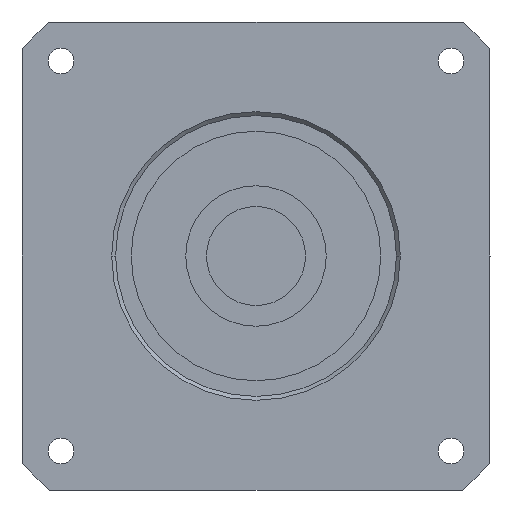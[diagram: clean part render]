
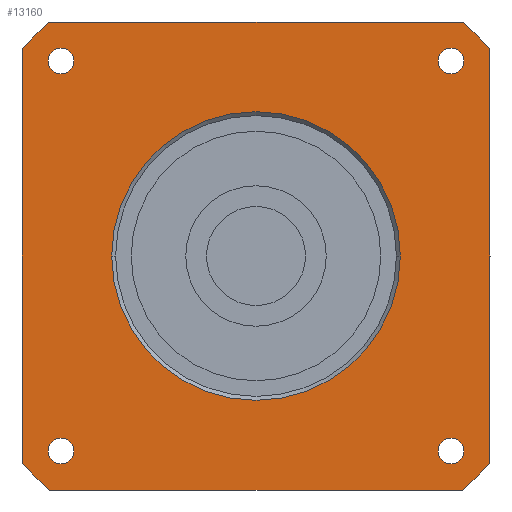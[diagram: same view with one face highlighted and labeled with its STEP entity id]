
A CAD part, left-side view. The second image highlights one B-rep face of the part: STEP entity #13160.
In plain terms, the highlighted planar face has unit normal (-1, 0, 0) as drawn and (0, 0, -1) by its records, which use the part's own axes.
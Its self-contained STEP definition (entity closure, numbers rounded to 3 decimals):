
#8640=CARTESIAN_POINT('',(25.,26.65,-39.));
#8650=VERTEX_POINT('',#8640);
#8830=CARTESIAN_POINT('',(25.,23.35,-39.));
#8840=VERTEX_POINT('',#8830);
#8870=CARTESIAN_POINT('',(25.,25.,-39.));
#8880=DIRECTION('',(0.,0.,-1.));
#8890=DIRECTION('',(0.,-1.,0.));
#8900=AXIS2_PLACEMENT_3D('',#8870,#8880,#8890);
#8910=CIRCLE('',#8900,1.65);
#8920=EDGE_CURVE('',#8650,#8840,#8910,.T.);
#9060=CARTESIAN_POINT('',(-25.,-23.35,-39.));
#9070=VERTEX_POINT('',#9060);
#9250=CARTESIAN_POINT('',(-25.,-26.65,-39.));
#9260=VERTEX_POINT('',#9250);
#9290=CARTESIAN_POINT('',(-25.,-25.,-39.));
#9300=DIRECTION('',(0.,0.,-1.));
#9310=DIRECTION('',(0.,-1.,0.));
#9320=AXIS2_PLACEMENT_3D('',#9290,#9300,#9310);
#9330=CIRCLE('',#9320,1.65);
#9340=EDGE_CURVE('',#9070,#9260,#9330,.T.);
#11680=CARTESIAN_POINT('',(-18.5,0.,-39.));
#11690=VERTEX_POINT('',#11680);
#11720=CARTESIAN_POINT('',(0.,0.,
-39.));
#11730=DIRECTION('',(0.,0.,-1.));
#11740=DIRECTION('',(0.,-1.,0.));
#11750=AXIS2_PLACEMENT_3D('',#11720,#11730,#11740);
#11760=CIRCLE('',#11750,18.5);
#11770=CARTESIAN_POINT('',(0.,-18.5,-39.));
#11780=VERTEX_POINT('',#11770);
#11790=EDGE_CURVE('',#11780,#11690,#11760,.T.);
#11810=CARTESIAN_POINT('',(18.5,0.,-39.));
#11820=VERTEX_POINT('',#11810);
#11830=EDGE_CURVE('',#11820,#11780,#11760,.T.);
#11950=CARTESIAN_POINT('',(0.,-40.,-39.));
#11960=DIRECTION('',(0.,0.,-1.));
#11970=DIRECTION('',(0.,-1.,0.));
#11980=AXIS2_PLACEMENT_3D('',#11950,#11960,#11970);
#11990=PLANE('',#11980);
#12000=CARTESIAN_POINT('',(25.,-25.,-39.));
#12010=DIRECTION('',(0.,0.,-1.));
#12020=DIRECTION('',(0.,-1.,0.));
#12030=AXIS2_PLACEMENT_3D('',#12000,#12010,#12020);
#12040=CIRCLE('',#12030,1.65);
#12050=CARTESIAN_POINT('',(25.,-26.65,-39.));
#12060=VERTEX_POINT('',#12050);
#12070=CARTESIAN_POINT('',(25.,-23.35,-39.));
#12080=VERTEX_POINT('',#12070);
#12090=EDGE_CURVE('',#12060,#12080,#12040,.T.);
#12100=ORIENTED_EDGE('',*,*,#12090,.F.);
#12110=EDGE_CURVE('',#12080,#12060,#12040,.T.);
#12120=ORIENTED_EDGE('',*,*,#12110,.F.);
#12130=EDGE_LOOP('',(#12120,#12100));
#12140=FACE_BOUND('',#12130,.T.);
#12150=EDGE_CURVE('',#8840,#8650,#8910,.T.);
#12160=ORIENTED_EDGE('',*,*,#12150,.F.);
#12170=ORIENTED_EDGE('',*,*,#8920,.F.);
#12180=EDGE_LOOP('',(#12170,#12160));
#12190=FACE_BOUND('',#12180,.T.);
#12200=CARTESIAN_POINT('',(-25.,25.,-39.));
#12210=DIRECTION('',(0.,0.,-1.));
#12220=DIRECTION('',(0.,-1.,0.));
#12230=AXIS2_PLACEMENT_3D('',#12200,#12210,#12220);
#12240=CIRCLE('',#12230,1.65);
#12250=CARTESIAN_POINT('',(-25.,23.35,-39.));
#12260=VERTEX_POINT('',#12250);
#12270=CARTESIAN_POINT('',(-25.,26.65,-39.));
#12280=VERTEX_POINT('',#12270);
#12290=EDGE_CURVE('',#12260,#12280,#12240,.T.);
#12300=ORIENTED_EDGE('',*,*,#12290,.F.);
#12310=EDGE_CURVE('',#12280,#12260,#12240,.T.);
#12320=ORIENTED_EDGE('',*,*,#12310,.F.);
#12330=EDGE_LOOP('',(#12320,#12300));
#12340=FACE_BOUND('',#12330,.T.);
#12350=EDGE_CURVE('',#9260,#9070,#9330,.T.);
#12360=ORIENTED_EDGE('',*,*,#12350,.F.);
#12370=ORIENTED_EDGE('',*,*,#9340,.F.);
#12380=EDGE_LOOP('',(#12370,#12360));
#12390=FACE_BOUND('',#12380,.T.);
#12400=ORIENTED_EDGE('',*,*,#11790,.F.);
#12410=EDGE_CURVE('',#11690,#11820,#11760,.T.);
#12420=ORIENTED_EDGE('',*,*,#12410,.F.);
#12430=ORIENTED_EDGE('',*,*,#11830,.F.);
#12440=EDGE_LOOP('',(#12430,#12420,#12400));
#12450=FACE_BOUND('',#12440,.T.);
#12460=CARTESIAN_POINT('',(-30.,-40.,-39.));
#12470=DIRECTION('',(0.,1.,0.));
#12480=VECTOR('',#12470,1000.);
#12490=LINE('',#12460,#12480);
#12500=CARTESIAN_POINT('',(-30.,-26.458,-39.));
#12510=VERTEX_POINT('',#12500);
#12520=CARTESIAN_POINT('',(-30.,26.458,-39.));
#12530=VERTEX_POINT('',#12520);
#12540=EDGE_CURVE('',#12510,#12530,#12490,.T.);
#12550=ORIENTED_EDGE('',*,*,#12540,.T.);
#12560=CARTESIAN_POINT('',(0.,0.,
-39.));
#12570=DIRECTION('',(0.,0.,1.));
#12580=DIRECTION('',(0.,1.,0.));
#12590=AXIS2_PLACEMENT_3D('',#12560,#12570,#12580);
#12600=CIRCLE('',#12590,40.);
#12610=CARTESIAN_POINT('',(-26.458,-30.,-39.));
#12620=VERTEX_POINT('',#12610);
#12630=EDGE_CURVE('',#12510,#12620,#12600,.T.);
#12640=ORIENTED_EDGE('',*,*,#12630,.F.);
#12650=CARTESIAN_POINT('',(0.,-30.,-39.));
#12660=DIRECTION('',(-1.,0.,0.));
#12670=VECTOR('',#12660,1000.);
#12680=LINE('',#12650,#12670);
#12690=CARTESIAN_POINT('',(26.458,-30.,-39.));
#12700=VERTEX_POINT('',#12690);
#12710=EDGE_CURVE('',#12700,#12620,#12680,.T.);
#12720=ORIENTED_EDGE('',*,*,#12710,.T.);
#12730=CARTESIAN_POINT('',(0.,0.,
-39.));
#12740=DIRECTION('',(0.,0.,1.));
#12750=DIRECTION('',(0.,1.,0.));
#12760=AXIS2_PLACEMENT_3D('',#12730,#12740,#12750);
#12770=CIRCLE('',#12760,40.);
#12780=CARTESIAN_POINT('',(30.,-26.458,-39.));
#12790=VERTEX_POINT('',#12780);
#12800=EDGE_CURVE('',#12700,#12790,#12770,.T.);
#12810=ORIENTED_EDGE('',*,*,#12800,.F.);
#12820=CARTESIAN_POINT('',(30.,-40.,-39.));
#12830=DIRECTION('',(0.,-1.,0.));
#12840=VECTOR('',#12830,1000.);
#12850=LINE('',#12820,#12840);
#12860=CARTESIAN_POINT('',(30.,26.458,-39.));
#12870=VERTEX_POINT('',#12860);
#12880=EDGE_CURVE('',#12870,#12790,#12850,.T.);
#12890=ORIENTED_EDGE('',*,*,#12880,.T.);
#12900=CARTESIAN_POINT('',(0.,0.,
-39.));
#12910=DIRECTION('',(0.,0.,1.));
#12920=DIRECTION('',(0.,1.,0.));
#12930=AXIS2_PLACEMENT_3D('',#12900,#12910,#12920);
#12940=CIRCLE('',#12930,40.);
#12950=CARTESIAN_POINT('',(26.458,30.,-39.));
#12960=VERTEX_POINT('',#12950);
#12970=EDGE_CURVE('',#12870,#12960,#12940,.T.);
#12980=ORIENTED_EDGE('',*,*,#12970,.F.);
#12990=CARTESIAN_POINT('',(0.,30.,-39.));
#13000=DIRECTION('',(1.,0.,0.));
#13010=VECTOR('',#13000,1000.);
#13020=LINE('',#12990,#13010);
#13030=CARTESIAN_POINT('',(-26.458,30.,-39.));
#13040=VERTEX_POINT('',#13030);
#13050=EDGE_CURVE('',#13040,#12960,#13020,.T.);
#13060=ORIENTED_EDGE('',*,*,#13050,.T.);
#13070=CARTESIAN_POINT('',(0.,0.,
-39.));
#13080=DIRECTION('',(0.,0.,1.));
#13090=DIRECTION('',(0.,1.,0.));
#13100=AXIS2_PLACEMENT_3D('',#13070,#13080,#13090);
#13110=CIRCLE('',#13100,40.);
#13120=EDGE_CURVE('',#13040,#12530,#13110,.T.);
#13130=ORIENTED_EDGE('',*,*,#13120,.F.);
#13140=EDGE_LOOP('',(#13130,#13060,#12980,#12890,#12810,#12720,#12640,
#12550));
#13150=FACE_OUTER_BOUND('',#13140,.T.);
#13160=ADVANCED_FACE('',(#12140,#12190,#12340,#12390,#12450,#13150),
#11990,.T.);
